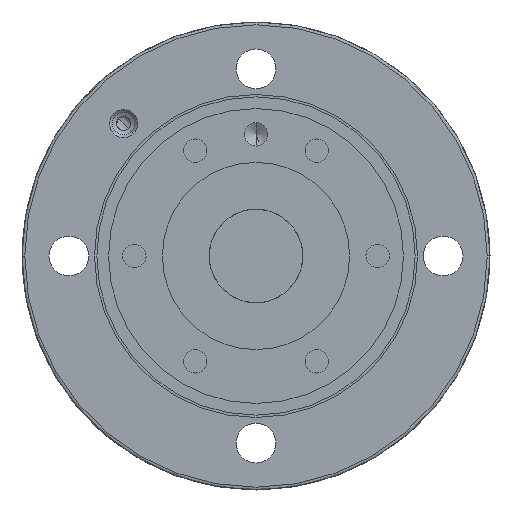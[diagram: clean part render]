
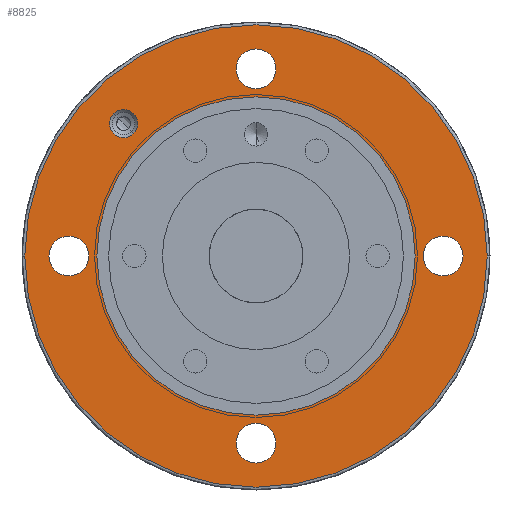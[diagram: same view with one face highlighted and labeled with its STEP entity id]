
A CAD part, left-side view. The second image highlights one B-rep face of the part: STEP entity #8825.
In plain terms, the highlighted planar face has unit normal (-1, 0, 0).
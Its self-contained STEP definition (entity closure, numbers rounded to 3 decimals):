
#152 = EDGE_CURVE ( 'NONE', #10991, #10990, #10128, .T. ) ;
#159 = EDGE_CURVE ( 'NONE', #10998, #10999, #10138, .T. ) ;
#209 = EDGE_CURVE ( 'NONE', #11028, #11029, #3550, .T. ) ;
#213 = EDGE_CURVE ( 'NONE', #11032, #11033, #3556, .T. ) ;
#217 = EDGE_CURVE ( 'NONE', #11036, #11037, #3561, .T. ) ;
#221 = EDGE_CURVE ( 'NONE', #11040, #11041, #3568, .T. ) ;
#265 = EDGE_CURVE ( 'NONE', #10850, #10849, #3630, .T. ) ;
#267 = EDGE_CURVE ( 'NONE', #10849, #10850, #3631, .T. ) ;
#292 = EDGE_CURVE ( 'NONE', #11029, #11028, #3655, .T. ) ;
#293 = EDGE_CURVE ( 'NONE', #11041, #11040, #3656, .T. ) ;
#294 = EDGE_CURVE ( 'NONE', #11037, #11036, #3657, .T. ) ;
#295 = EDGE_CURVE ( 'NONE', #10999, #10998, #3658, .T. ) ;
#296 = EDGE_CURVE ( 'NONE', #11033, #11032, #3659, .T. ) ;
#297 = EDGE_CURVE ( 'NONE', #10990, #10991, #3660, .T. ) ;
#891 = ORIENTED_EDGE ( 'NONE', *, *, #265, .T. ) ;
#892 = ORIENTED_EDGE ( 'NONE', *, *, #267, .T. ) ;
#893 = ORIENTED_EDGE ( 'NONE', *, *, #295, .F. ) ;
#894 = ORIENTED_EDGE ( 'NONE', *, *, #159, .F. ) ;
#895 = ORIENTED_EDGE ( 'NONE', *, *, #293, .T. ) ;
#896 = ORIENTED_EDGE ( 'NONE', *, *, #221, .T. ) ;
#897 = ORIENTED_EDGE ( 'NONE', *, *, #294, .T. ) ;
#898 = ORIENTED_EDGE ( 'NONE', *, *, #217, .T. ) ;
#899 = ORIENTED_EDGE ( 'NONE', *, *, #296, .T. ) ;
#900 = ORIENTED_EDGE ( 'NONE', *, *, #213, .T. ) ;
#901 = ORIENTED_EDGE ( 'NONE', *, *, #292, .T. ) ;
#902 = ORIENTED_EDGE ( 'NONE', *, *, #209, .T. ) ;
#903 = ORIENTED_EDGE ( 'NONE', *, *, #152, .T. ) ;
#904 = ORIENTED_EDGE ( 'NONE', *, *, #297, .T. ) ;
#1129 = AXIS2_PLACEMENT_3D ( 'NONE', #8011, #8020, #8021 ) ;
#1480 = FACE_BOUND ( 'NONE', #9607, .T. ) ;
#1494 = FACE_BOUND ( 'NONE', #9613, .T. ) ;
#1500 = FACE_BOUND ( 'NONE', #9614, .T. ) ;
#1501 = FACE_OUTER_BOUND ( 'NONE', #9610, .T. ) ;
#1502 = FACE_BOUND ( 'NONE', #9615, .T. ) ;
#1503 = FACE_BOUND ( 'NONE', #9611, .T. ) ;
#1505 = FACE_BOUND ( 'NONE', #9612, .T. ) ;
#2739 = CARTESIAN_POINT ( 'NONE',  ( 0., 0., -34. ) ) ;
#2740 = CARTESIAN_POINT ( 'NONE',  ( 0., 0., 34. ) ) ;
#2880 = CARTESIAN_POINT ( 'NONE',  ( 0., 26.163, 26.163 ) ) ;
#2881 = CARTESIAN_POINT ( 'NONE',  ( 0., 30.406, 30.406 ) ) ;
#2888 = CARTESIAN_POINT ( 'NONE',  ( 0., -49.4, 0. ) ) ;
#2889 = CARTESIAN_POINT ( 'NONE',  ( 0., 49.4, 0. ) ) ;
#2918 = CARTESIAN_POINT ( 'NONE',  ( 0., -40., 4.25 ) ) ;
#2919 = CARTESIAN_POINT ( 'NONE',  ( 0., -40., -4.25 ) ) ;
#2922 = CARTESIAN_POINT ( 'NONE',  ( 0., -4.25, -40. ) ) ;
#2923 = CARTESIAN_POINT ( 'NONE',  ( 0., 4.25, -40. ) ) ;
#2926 = CARTESIAN_POINT ( 'NONE',  ( 0., 40., -4.25 ) ) ;
#2927 = CARTESIAN_POINT ( 'NONE',  ( 0., 40., 4.25 ) ) ;
#2930 = CARTESIAN_POINT ( 'NONE',  ( 0., 4.25, 40. ) ) ;
#2931 = CARTESIAN_POINT ( 'NONE',  ( 0., -4.25, 40. ) ) ;
#3550 = CIRCLE ( 'NONE', #10325, 4.25 ) ;
#3556 = CIRCLE ( 'NONE', #10326, 4.25 ) ;
#3561 = CIRCLE ( 'NONE', #10329, 4.25 ) ;
#3568 = CIRCLE ( 'NONE', #10328, 4.25 ) ;
#3630 = CIRCLE ( 'NONE', #10350, 34. ) ;
#3631 = CIRCLE ( 'NONE', #10353, 34. ) ;
#3655 = CIRCLE ( 'NONE', #10376, 4.25 ) ;
#3656 = CIRCLE ( 'NONE', #10377, 4.25 ) ;
#3657 = CIRCLE ( 'NONE', #10378, 4.25 ) ;
#3658 = CIRCLE ( 'NONE', #10379, 49.4 ) ;
#3659 = CIRCLE ( 'NONE', #10380, 4.25 ) ;
#3660 = CIRCLE ( 'NONE', #10381, 3. ) ;
#4201 = CARTESIAN_POINT ( 'NONE',  ( 0., 0., 0. ) ) ;
#4202 = DIRECTION ( 'NONE',  ( 1., 0., 0. ) ) ;
#4203 = DIRECTION ( 'NONE',  ( 0., 0., 1. ) ) ;
#4204 = CARTESIAN_POINT ( 'NONE',  ( 0., 0., 0. ) ) ;
#4206 = DIRECTION ( 'NONE',  ( 1., 0., 0. ) ) ;
#4207 = DIRECTION ( 'NONE',  ( 0., 0., 1. ) ) ;
#4275 = CARTESIAN_POINT ( 'NONE',  ( 0., -40., 0. ) ) ;
#4278 = CARTESIAN_POINT ( 'NONE',  ( 0., 0., 40. ) ) ;
#4281 = CARTESIAN_POINT ( 'NONE',  ( 0., 40., 0. ) ) ;
#4282 = DIRECTION ( 'NONE',  ( 1., 0., 0. ) ) ;
#4283 = DIRECTION ( 'NONE',  ( 0., 0., -1. ) ) ;
#4284 = CARTESIAN_POINT ( 'NONE',  ( 0., 0., 0. ) ) ;
#4285 = DIRECTION ( 'NONE',  ( 1., 0., 0. ) ) ;
#4286 = DIRECTION ( 'NONE',  ( 0., -1., 0. ) ) ;
#4287 = CARTESIAN_POINT ( 'NONE',  ( 0., 0., -40. ) ) ;
#4288 = DIRECTION ( 'NONE',  ( 1., 0., 0. ) ) ;
#4289 = DIRECTION ( 'NONE',  ( 0., 0., 1. ) ) ;
#4290 = CARTESIAN_POINT ( 'NONE',  ( 0., 28.284, 28.284 ) ) ;
#4291 = DIRECTION ( 'NONE',  ( 1., 0., 0. ) ) ;
#4292 = DIRECTION ( 'NONE',  ( 0., 0., 1. ) ) ;
#4294 = DIRECTION ( 'NONE',  ( 1., 0., 0. ) ) ;
#4295 = DIRECTION ( 'NONE',  ( 0., 1., 0. ) ) ;
#4297 = DIRECTION ( 'NONE',  ( 1., 0., 0. ) ) ;
#4298 = DIRECTION ( 'NONE',  ( 0., 0.707, 0.707 ) ) ;
#8011 = CARTESIAN_POINT ( 'NONE',  ( 0., 0., 41.7 ) ) ;
#8012 = PLANE ( 'NONE',  #1129 ) ;
#8020 = DIRECTION ( 'NONE',  ( -1., 0., 0. ) ) ;
#8021 = DIRECTION ( 'NONE',  ( 0., 0., 1. ) ) ;
#8825 = ADVANCED_FACE ( 'NONE', ( #1480, #1501, #1503, #1505, #1494, #1500, #1502 ), #8012, .T. ) ;
#9607 = EDGE_LOOP ( 'NONE', ( #891, #892 ) ) ;
#9610 = EDGE_LOOP ( 'NONE', ( #893, #894 ) ) ;
#9611 = EDGE_LOOP ( 'NONE', ( #895, #896 ) ) ;
#9612 = EDGE_LOOP ( 'NONE', ( #897, #898 ) ) ;
#9613 = EDGE_LOOP ( 'NONE', ( #899, #900 ) ) ;
#9614 = EDGE_LOOP ( 'NONE', ( #901, #902 ) ) ;
#9615 = EDGE_LOOP ( 'NONE', ( #903, #904 ) ) ;
#10128 = CIRCLE ( 'NONE', #10289, 3. ) ;
#10138 = CIRCLE ( 'NONE', #10291, 49.4 ) ;
#10289 = AXIS2_PLACEMENT_3D ( 'NONE', #11588, #11618, #11619 ) ;
#10291 = AXIS2_PLACEMENT_3D ( 'NONE', #11635, #11636, #11637 ) ;
#10325 = AXIS2_PLACEMENT_3D ( 'NONE', #11813, #11814, #11815 ) ;
#10326 = AXIS2_PLACEMENT_3D ( 'NONE', #11823, #11824, #11825 ) ;
#10328 = AXIS2_PLACEMENT_3D ( 'NONE', #11865, #11866, #11867 ) ;
#10329 = AXIS2_PLACEMENT_3D ( 'NONE', #11856, #11857, #11858 ) ;
#10350 = AXIS2_PLACEMENT_3D ( 'NONE', #4201, #4202, #4203 ) ;
#10353 = AXIS2_PLACEMENT_3D ( 'NONE', #4204, #4206, #4207 ) ;
#10376 = AXIS2_PLACEMENT_3D ( 'NONE', #4275, #4282, #4283 ) ;
#10377 = AXIS2_PLACEMENT_3D ( 'NONE', #4278, #4285, #4286 ) ;
#10378 = AXIS2_PLACEMENT_3D ( 'NONE', #4281, #4288, #4289 ) ;
#10379 = AXIS2_PLACEMENT_3D ( 'NONE', #4284, #4291, #4292 ) ;
#10380 = AXIS2_PLACEMENT_3D ( 'NONE', #4287, #4294, #4295 ) ;
#10381 = AXIS2_PLACEMENT_3D ( 'NONE', #4290, #4297, #4298 ) ;
#10849 = VERTEX_POINT ( 'NONE', #2739 ) ;
#10850 = VERTEX_POINT ( 'NONE', #2740 ) ;
#10990 = VERTEX_POINT ( 'NONE', #2880 ) ;
#10991 = VERTEX_POINT ( 'NONE', #2881 ) ;
#10998 = VERTEX_POINT ( 'NONE', #2888 ) ;
#10999 = VERTEX_POINT ( 'NONE', #2889 ) ;
#11028 = VERTEX_POINT ( 'NONE', #2918 ) ;
#11029 = VERTEX_POINT ( 'NONE', #2919 ) ;
#11032 = VERTEX_POINT ( 'NONE', #2922 ) ;
#11033 = VERTEX_POINT ( 'NONE', #2923 ) ;
#11036 = VERTEX_POINT ( 'NONE', #2926 ) ;
#11037 = VERTEX_POINT ( 'NONE', #2927 ) ;
#11040 = VERTEX_POINT ( 'NONE', #2930 ) ;
#11041 = VERTEX_POINT ( 'NONE', #2931 ) ;
#11588 = CARTESIAN_POINT ( 'NONE',  ( 0., 28.284, 28.284 ) ) ;
#11618 = DIRECTION ( 'NONE',  ( 1., 0., 0. ) ) ;
#11619 = DIRECTION ( 'NONE',  ( 0., 0.707, 0.707 ) ) ;
#11635 = CARTESIAN_POINT ( 'NONE',  ( 0., 0., 0. ) ) ;
#11636 = DIRECTION ( 'NONE',  ( 1., 0., 0. ) ) ;
#11637 = DIRECTION ( 'NONE',  ( 0., 0., 1. ) ) ;
#11813 = CARTESIAN_POINT ( 'NONE',  ( 0., -40., 0. ) ) ;
#11814 = DIRECTION ( 'NONE',  ( 1., 0., 0. ) ) ;
#11815 = DIRECTION ( 'NONE',  ( 0., 0., -1. ) ) ;
#11823 = CARTESIAN_POINT ( 'NONE',  ( 0., 0., -40. ) ) ;
#11824 = DIRECTION ( 'NONE',  ( 1., 0., 0. ) ) ;
#11825 = DIRECTION ( 'NONE',  ( 0., 1., 0. ) ) ;
#11856 = CARTESIAN_POINT ( 'NONE',  ( 0., 40., 0. ) ) ;
#11857 = DIRECTION ( 'NONE',  ( 1., 0., 0. ) ) ;
#11858 = DIRECTION ( 'NONE',  ( 0., 0., 1. ) ) ;
#11865 = CARTESIAN_POINT ( 'NONE',  ( 0., 0., 40. ) ) ;
#11866 = DIRECTION ( 'NONE',  ( 1., 0., 0. ) ) ;
#11867 = DIRECTION ( 'NONE',  ( 0., -1., 0. ) ) ;
